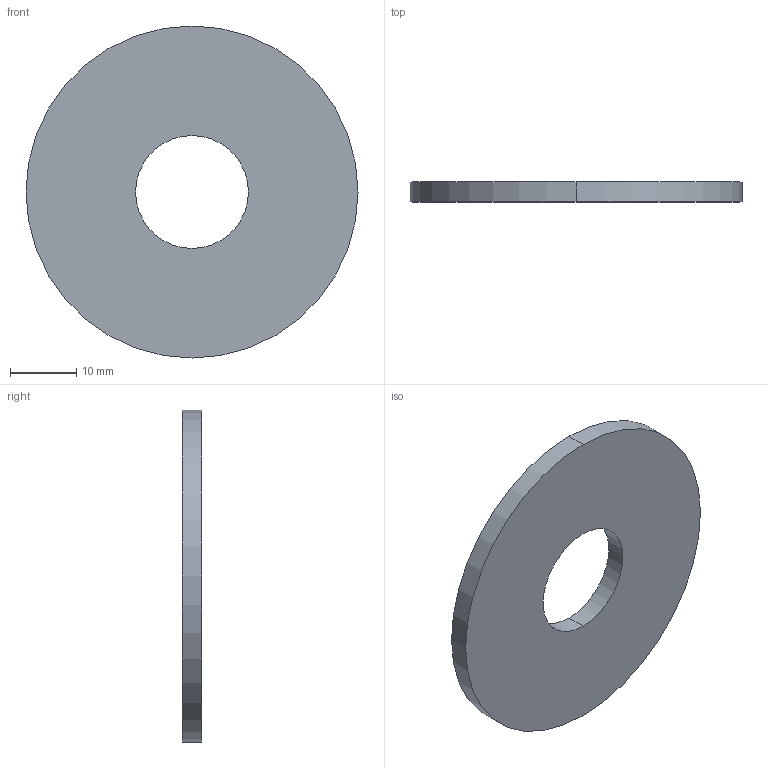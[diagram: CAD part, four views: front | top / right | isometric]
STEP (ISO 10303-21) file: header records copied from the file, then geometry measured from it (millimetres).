
FILE_DESCRIPTION (( 'STEP AP203' ), '1' );
FILE_NAME ('Wiberger-din9021_17.step', '2015-09-02T12:16:16', ( 'Magnus' ), ( 'Microsoft' ), 'SwSTEP 2.0', 'SolidWorks 2015', '' );
FILE_SCHEMA (( 'CONFIG_CONTROL_DESIGN' ));
Length unit declared in the file: millimetre
Products named in the file (1): Wiberger-din9021_17
Bounding box: 50 x 3 x 50 mm (x, y, z)
Volume: 5209.5 mm3; surface area: 4104.5 mm2
Topology: 1 solids, 1 shells, 6 faces, 12 edges, 8 vertices
Faces by surface type: cylinder 4, plane 2
Entity records: 245 total; most frequent: DIRECTION 34, CARTESIAN_POINT 27, ORIENTED_EDGE 24, AXIS2_PLACEMENT_3D 15, EDGE_CURVE 12, CIRCLE 8, VERTEX_POINT 8, PERSON_AND_ORGANIZATION 8
